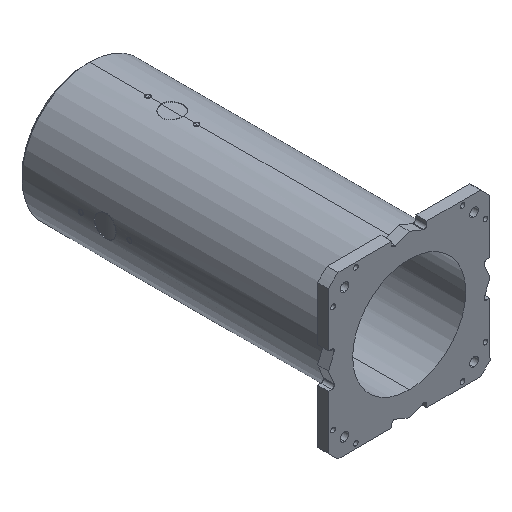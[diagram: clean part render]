
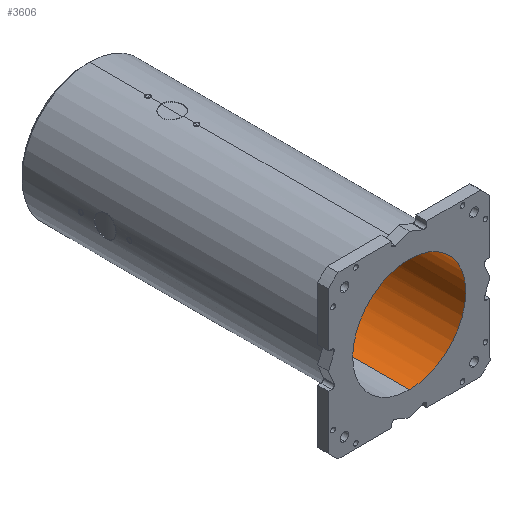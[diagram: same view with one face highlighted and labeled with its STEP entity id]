
A CAD part, isometric view. The second image highlights one B-rep face of the part: STEP entity #3606.
In plain terms, the highlighted cylindrical face has radius 105 mm (diameter 210 mm), a partial arc.
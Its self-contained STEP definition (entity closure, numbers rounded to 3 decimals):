
#170 = EDGE_CURVE ( 'NONE', #8503, #9438, #3732, .T. ) ;
#360 = DIRECTION ( 'NONE',  ( 0., 0., 1. ) ) ;
#449 = AXIS2_PLACEMENT_3D ( 'NONE', #9415, #2909, #5371 ) ;
#551 = ORIENTED_EDGE ( 'NONE', *, *, #15710, .T. ) ;
#588 = EDGE_CURVE ( 'NONE', #12239, #9117, #4535, .T. ) ;
#717 = CARTESIAN_POINT ( 'NONE',  ( 0., 582., 0. ) ) ;
#808 = CARTESIAN_POINT ( 'NONE',  ( 0., 0., -105. ) ) ;
#1019 = VERTEX_POINT ( 'NONE', #4271 ) ;
#1315 = DIRECTION ( 'NONE',  ( 0., 1., 0. ) ) ;
#1343 = LINE ( 'NONE', #12679, #2954 ) ;
#1523 = DIRECTION ( 'NONE',  ( 0., 1., 0. ) ) ;
#1806 = CARTESIAN_POINT ( 'NONE',  ( 0., 0., 0. ) ) ;
#2001 = AXIS2_PLACEMENT_3D ( 'NONE', #717, #9447, #10752 ) ;
#2198 = CARTESIAN_POINT ( 'NONE',  ( 0., 582., 0. ) ) ;
#2236 = CARTESIAN_POINT ( 'NONE',  ( 0., 582., 0. ) ) ;
#2273 = CIRCLE ( 'NONE', #10076, 105. ) ;
#2307 = DIRECTION ( 'NONE',  ( 0., 0., 1. ) ) ;
#2388 = DIRECTION ( 'NONE',  ( 0., 0., 1. ) ) ;
#2853 = EDGE_CURVE ( 'NONE', #16002, #15501, #7138, .T. ) ;
#2909 = DIRECTION ( 'NONE',  ( 0., 1., 0. ) ) ;
#2954 = VECTOR ( 'NONE', #11284, 1000. ) ;
#3050 = CIRCLE ( 'NONE', #3848, 105. ) ;
#3174 = DIRECTION ( 'NONE',  ( 0., 1., 0. ) ) ;
#3606 = ADVANCED_FACE ( 'NONE', ( #15624 ), #4445, .F. ) ;
#3608 = CARTESIAN_POINT ( 'NONE',  ( 0., 582., 0. ) ) ;
#3668 = EDGE_CURVE ( 'NONE', #9117, #1019, #15925, .T. ) ;
#3732 = CIRCLE ( 'NONE', #5564, 105. ) ;
#3848 = AXIS2_PLACEMENT_3D ( 'NONE', #4921, #6059, #2307 ) ;
#3902 = CARTESIAN_POINT ( 'NONE',  ( 0., 0., 105. ) ) ;
#4112 = DIRECTION ( 'NONE',  ( 0., 1., 0. ) ) ;
#4212 = DIRECTION ( 'NONE',  ( 0., 1., 0. ) ) ;
#4271 = CARTESIAN_POINT ( 'NONE',  ( 76.483, 582., -71.94 ) ) ;
#4445 = CYLINDRICAL_SURFACE ( 'NONE', #8124, 105. ) ;
#4535 = CIRCLE ( 'NONE', #10762, 105. ) ;
#4921 = CARTESIAN_POINT ( 'NONE',  ( 0., 582., 0. ) ) ;
#5208 = DIRECTION ( 'NONE',  ( 0., 0., 1. ) ) ;
#5342 = DIRECTION ( 'NONE',  ( 0., 0., 1. ) ) ;
#5371 = DIRECTION ( 'NONE',  ( 0., 0., 1. ) ) ;
#5564 = AXIS2_PLACEMENT_3D ( 'NONE', #1806, #4112, #5342 ) ;
#5630 = VERTEX_POINT ( 'NONE', #10355 ) ;
#5649 = ORIENTED_EDGE ( 'NONE', *, *, #2853, .T. ) ;
#5832 = EDGE_LOOP ( 'NONE', ( #11275, #12219, #551, #5649, #10298, #15416, #13988, #12121, #12125, #14247, #13740, #13450 ) ) ;
#6059 = DIRECTION ( 'NONE',  ( 0., 1., 0. ) ) ;
#6066 = EDGE_CURVE ( 'NONE', #11707, #13234, #2273, .T. ) ;
#6416 = DIRECTION ( 'NONE',  ( 0., 1., 0. ) ) ;
#6448 = CIRCLE ( 'NONE', #9301, 105. ) ;
#6480 = EDGE_CURVE ( 'NONE', #15096, #6854, #10090, .T. ) ;
#6712 = EDGE_CURVE ( 'NONE', #1019, #15096, #3050, .T. ) ;
#6829 = CARTESIAN_POINT ( 'NONE',  ( 0., 0., -105. ) ) ;
#6854 = VERTEX_POINT ( 'NONE', #13636 ) ;
#7099 = DIRECTION ( 'NONE',  ( 0., 0., 1. ) ) ;
#7138 = CIRCLE ( 'NONE', #13919, 105. ) ;
#7772 = CIRCLE ( 'NONE', #12168, 105. ) ;
#8124 = AXIS2_PLACEMENT_3D ( 'NONE', #8289, #9405, #14380 ) ;
#8289 = CARTESIAN_POINT ( 'NONE',  ( 0., 0., 0. ) ) ;
#8448 = DIRECTION ( 'NONE',  ( 0., 1., 0. ) ) ;
#8503 = VERTEX_POINT ( 'NONE', #3902 ) ;
#8590 = DIRECTION ( 'NONE',  ( 0., 1., 0. ) ) ;
#8640 = VECTOR ( 'NONE', #1523, 1000. ) ;
#8812 = CARTESIAN_POINT ( 'NONE',  ( 0., 582., 105. ) ) ;
#9033 = CARTESIAN_POINT ( 'NONE',  ( 0., 582., 0. ) ) ;
#9117 = VERTEX_POINT ( 'NONE', #9294 ) ;
#9194 = LINE ( 'NONE', #6829, #8640 ) ;
#9294 = CARTESIAN_POINT ( 'NONE',  ( 76.483, 582., 71.94 ) ) ;
#9301 = AXIS2_PLACEMENT_3D ( 'NONE', #2198, #3174, #7099 ) ;
#9405 = DIRECTION ( 'NONE',  ( 0., 1., 0. ) ) ;
#9415 = CARTESIAN_POINT ( 'NONE',  ( 0., 582., 0. ) ) ;
#9438 = VERTEX_POINT ( 'NONE', #808 ) ;
#9447 = DIRECTION ( 'NONE',  ( 0., 1., 0. ) ) ;
#9800 = CIRCLE ( 'NONE', #2001, 105. ) ;
#10076 = AXIS2_PLACEMENT_3D ( 'NONE', #9033, #6416, #5208 ) ;
#10090 = CIRCLE ( 'NONE', #449, 105. ) ;
#10298 = ORIENTED_EDGE ( 'NONE', *, *, #13247, .T. ) ;
#10355 = CARTESIAN_POINT ( 'NONE',  ( 63.2, 582., 83.85 ) ) ;
#10399 = CARTESIAN_POINT ( 'NONE',  ( 65.645, 582., 81.95 ) ) ;
#10752 = DIRECTION ( 'NONE',  ( 0., 0., 1. ) ) ;
#10762 = AXIS2_PLACEMENT_3D ( 'NONE', #12595, #4212, #360 ) ;
#11275 = ORIENTED_EDGE ( 'NONE', *, *, #11300, .F. ) ;
#11284 = DIRECTION ( 'NONE',  ( 0., 1., 0. ) ) ;
#11300 = EDGE_CURVE ( 'NONE', #9438, #6854, #9194, .T. ) ;
#11707 = VERTEX_POINT ( 'NONE', #10399 ) ;
#12121 = ORIENTED_EDGE ( 'NONE', *, *, #13863, .T. ) ;
#12125 = ORIENTED_EDGE ( 'NONE', *, *, #588, .T. ) ;
#12168 = AXIS2_PLACEMENT_3D ( 'NONE', #2236, #8448, #13319 ) ;
#12219 = ORIENTED_EDGE ( 'NONE', *, *, #170, .F. ) ;
#12239 = VERTEX_POINT ( 'NONE', #14074 ) ;
#12256 = AXIS2_PLACEMENT_3D ( 'NONE', #13555, #1315, #2388 ) ;
#12595 = CARTESIAN_POINT ( 'NONE',  ( 0., 582., 0. ) ) ;
#12679 = CARTESIAN_POINT ( 'NONE',  ( 0., 0., 105. ) ) ;
#12785 = CARTESIAN_POINT ( 'NONE',  ( 57.845, 582., 87.63 ) ) ;
#12887 = CARTESIAN_POINT ( 'NONE',  ( 69.052, 582., 79.1 ) ) ;
#13234 = VERTEX_POINT ( 'NONE', #12887 ) ;
#13247 = EDGE_CURVE ( 'NONE', #15501, #5630, #9800, .T. ) ;
#13319 = DIRECTION ( 'NONE',  ( 0., 0., 1. ) ) ;
#13450 = ORIENTED_EDGE ( 'NONE', *, *, #6480, .T. ) ;
#13552 = DIRECTION ( 'NONE',  ( 0., 0., 1. ) ) ;
#13555 = CARTESIAN_POINT ( 'NONE',  ( 0., 582., 0. ) ) ;
#13636 = CARTESIAN_POINT ( 'NONE',  ( 0., 582., -105. ) ) ;
#13666 = EDGE_CURVE ( 'NONE', #5630, #11707, #6448, .T. ) ;
#13703 = CARTESIAN_POINT ( 'NONE',  ( 71.94, 582., -76.483 ) ) ;
#13740 = ORIENTED_EDGE ( 'NONE', *, *, #6712, .T. ) ;
#13863 = EDGE_CURVE ( 'NONE', #13234, #12239, #7772, .T. ) ;
#13919 = AXIS2_PLACEMENT_3D ( 'NONE', #3608, #8590, #13552 ) ;
#13988 = ORIENTED_EDGE ( 'NONE', *, *, #6066, .T. ) ;
#14074 = CARTESIAN_POINT ( 'NONE',  ( 71.94, 582., 76.483 ) ) ;
#14247 = ORIENTED_EDGE ( 'NONE', *, *, #3668, .T. ) ;
#14380 = DIRECTION ( 'NONE',  ( 0., 0., 1. ) ) ;
#15096 = VERTEX_POINT ( 'NONE', #13703 ) ;
#15416 = ORIENTED_EDGE ( 'NONE', *, *, #13666, .T. ) ;
#15501 = VERTEX_POINT ( 'NONE', #12785 ) ;
#15624 = FACE_OUTER_BOUND ( 'NONE', #5832, .T. ) ;
#15710 = EDGE_CURVE ( 'NONE', #8503, #16002, #1343, .T. ) ;
#15925 = CIRCLE ( 'NONE', #12256, 105. ) ;
#16002 = VERTEX_POINT ( 'NONE', #8812 ) ;
